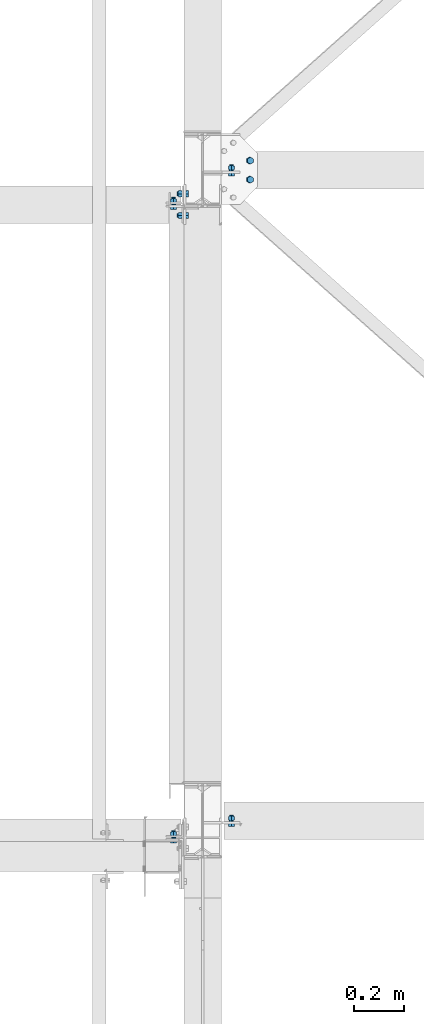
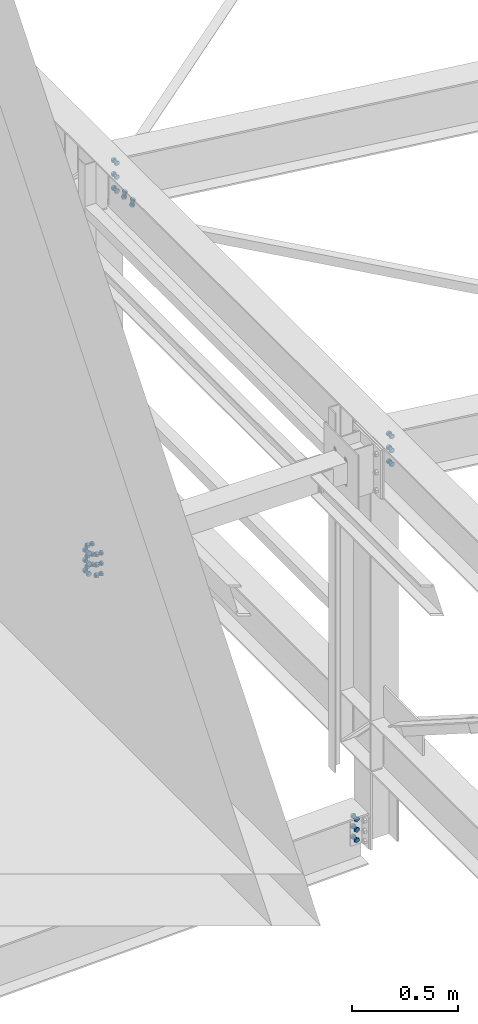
# One storey, part 96 of 3134: 7 mechanical fasteners, 5 elements without a shape of their own.
"""IFC2X3 building model written with IfcOpenShell, lengths in millimetres."""

from ifc_helpers import new_model, si_unit, frame, origin_with_axes, place, context, subcontext, project, spatial, faceted_brep, source, transform, mapped, material, type_object, element, aggregate, save


model = new_model("IFC2X3")

# Units and contexts
model_context = context("Model", 3, precision=1e-05, world=origin_with_axes())
body_context = subcontext(model_context, "Body", "Model", "MODEL_VIEW")
ifc_project = project(units=[si_unit("LENGTHUNIT", "METRE", prefix="MILLI"), si_unit("AREAUNIT", "SQUARE_METRE"), si_unit("VOLUMEUNIT", "CUBIC_METRE"), si_unit("MASSUNIT", "GRAM", prefix="KILO"), si_unit("TIMEUNIT", "SECOND"), si_unit("PLANEANGLEUNIT", "RADIAN"), si_unit("SOLIDANGLEUNIT", "STERADIAN"), si_unit("THERMODYNAMICTEMPERATUREUNIT", "DEGREE_CELSIUS"), si_unit("LUMINOUSINTENSITYUNIT", "LUMEN")], contexts=[model_context])

# Site, building, storey
site_placement = place(None, origin_with_axes())
site = spatial("IfcSite", under=ifc_project, at=site_placement, CompositionType="ELEMENT")
building_placement = place(site_placement, origin_with_axes())
building = spatial("IfcBuilding", under=site, at=building_placement, Name="Undefined", CompositionType="ELEMENT")
storey_placement = place(building_placement, origin_with_axes())
storey = spatial("IfcBuildingStorey", under=building, at=storey_placement, Name="Undefined", CompositionType="ELEMENT", Elevation=0.0)

# Assembly, mechanical fasteners
assembly_1_placement = place(storey_placement, origin_with_axes())
assembly_1 = element("IfcElementAssembly", 1, at=assembly_1_placement, inside=storey, Name="300", AssemblyPlace="NOTDEFINED", PredefinedType="RIGID_FRAME")
ifc_material = material(Name="8.8")
mechanical_fastener_type = type_object("IfcMechanicalFastenerType", Name="Bolt assembly")
shared_shape_1 = source(origin_with_axes(), body_context, "Body", "Brep", [
    faceted_brep([(13.856406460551, -19.199990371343, 0.0), (6.92820323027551, -19.199990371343, 12.0), (-6.92820323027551, -19.199990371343, 12.0), (-13.856406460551, -19.199990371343, 1.69692038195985e-15), (-6.92820323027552, -19.199990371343, -12.0), (6.9282032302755, -19.199990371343, -12.0), (6.9282032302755, -9.19999037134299, -12.0), (-6.92820323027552, -9.19999037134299, -12.0), (-13.856406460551, -9.19999037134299, 1.69692038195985e-15), (-6.92820323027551, -9.19999037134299, 12.0), (6.92820323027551, -9.19999037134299, 12.0), (13.856406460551, -9.19999037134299, 0.0), (8.0, -9.19999037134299, 0.0), (6.92820323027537, -9.19999037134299, 4.00000000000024), (3.99999999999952, -9.19999037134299, 6.92820323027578), (-8.29068785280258e-13, -9.19999037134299, 8.0), (-4.00000000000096, -9.19999037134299, 6.92820323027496), (-6.9282032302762, -9.19999037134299, 3.99999999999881), (-8.0, -9.19999037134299, -1.65813757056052e-12), (-6.92820323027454, -9.19999037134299, -4.00000000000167), (-3.99999999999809, -9.19999037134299, -6.92820323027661), (2.47832457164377e-12, -9.19999037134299, -8.0), (4.00000000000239, -9.19999037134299, -6.92820323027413), (6.92820323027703, -9.19999037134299, -3.99999999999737), (6.92820323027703, 25.800009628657, -3.99999999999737), (4.00000000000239, 25.800009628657, -6.92820323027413), (2.47832457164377e-12, 25.800009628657, -8.0), (-3.99999999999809, 25.800009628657, -6.92820323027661), (-6.92820323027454, 25.800009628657, -4.00000000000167), (-8.0, 25.800009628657, -1.65813757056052e-12), (-6.9282032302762, 25.800009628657, 3.99999999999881), (-4.00000000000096, 25.800009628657, 6.92820323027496), (-8.29068785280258e-13, 25.800009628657, 8.0), (3.99999999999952, 25.800009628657, 6.92820323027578), (6.92820323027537, 25.800009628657, 4.00000000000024), (8.0, 25.800009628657, 0.0), (13.856406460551, 8.00000637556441, 0.0), (6.92820323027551, 8.00000637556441, 12.0), (-6.92820323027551, 8.00000637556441, 12.0), (-13.856406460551, 8.00000637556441, 1.69692038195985e-15), (-6.92820323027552, 8.00000637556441, -12.0), (6.9282032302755, 8.00000637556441, -12.0), (6.9282032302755, 21.0000063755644, -12.0), (-6.92820323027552, 21.0000063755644, -12.0), (-13.856406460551, 21.0000063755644, 1.69692038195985e-15), (-6.92820323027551, 21.0000063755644, 12.0), (6.92820323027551, 21.0000063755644, 12.0), (13.856406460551, 21.0000063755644, 0.0)], [[[0, 1, 2, 3, 4, 5]], [[6, 7, 8, 9, 10, 11]], [[0, 11, 10, 1]], [[1, 10, 9, 2]], [[2, 9, 8, 3]], [[3, 8, 7, 4]], [[4, 7, 6, 5]], [[5, 6, 11, 0]], [[12, 13, 14, 15, 16, 17, 18, 19, 20, 21, 22, 23]], [[24, 25, 26, 27, 28, 29, 30, 31, 32, 33, 34, 35]], [[12, 35, 34, 13]], [[13, 34, 33, 14]], [[14, 33, 32, 15]], [[15, 32, 31, 16]], [[16, 31, 30, 17]], [[17, 30, 29, 18]], [[18, 29, 28, 19]], [[19, 28, 27, 20]], [[20, 27, 26, 21]], [[21, 26, 25, 22]], [[22, 25, 24, 23]], [[23, 24, 35, 12]], [[36, 37, 38, 39, 40, 41]], [[42, 43, 44, 45, 46, 47]], [[36, 47, 46, 37]], [[37, 46, 45, 38]], [[38, 45, 44, 39]], [[39, 44, 43, 40]], [[40, 43, 42, 41]], [[41, 42, 47, 36]]]),
    faceted_brep([(9.0, -0.1, 0.0), (7.79422863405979, -0.1, 4.50000000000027), (4.49999999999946, -0.1, 7.79422863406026), (-9.3270238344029e-13, -0.1, 9.0), (-4.50000000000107, -0.1, 7.79422863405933), (-7.79422863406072, -0.1, 4.49999999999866), (-9.0, -0.1, -1.86540476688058e-12), (-7.79422863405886, -0.1, -4.50000000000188), (-4.49999999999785, -0.1, -7.79422863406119), (2.78811514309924e-12, -0.1, -9.0), (4.50000000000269, -0.1, -7.7942286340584), (7.79422863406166, -0.1, -4.49999999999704), (7.79422863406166, 8.00000000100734, -4.49999999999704), (4.50000000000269, 8.00000000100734, -7.7942286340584), (2.78811514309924e-12, 8.00000000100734, -9.0), (-4.49999999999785, 8.00000000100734, -7.79422863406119), (-7.79422863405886, 8.00000000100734, -4.50000000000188), (-9.0, 8.00000000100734, -1.86540476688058e-12), (-7.79422863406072, 8.00000000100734, 4.49999999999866), (-4.50000000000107, 8.00000000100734, 7.79422863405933), (-9.3270238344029e-13, 8.00000000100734, 9.0), (4.49999999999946, 8.00000000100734, 7.79422863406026), (7.79422863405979, 8.00000000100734, 4.50000000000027), (9.0, 8.00000000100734, 0.0), (9.0, -9.09999037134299, 0.0), (7.79422863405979, -9.09999037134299, 4.50000000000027), (4.49999999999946, -9.09999037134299, 7.79422863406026), (-9.3270238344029e-13, -9.09999037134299, 9.0), (-4.50000000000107, -9.09999037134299, 7.79422863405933), (-7.79422863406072, -9.09999037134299, 4.49999999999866), (-9.0, -9.09999037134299, -1.86540476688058e-12), (-7.79422863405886, -9.09999037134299, -4.50000000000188), (-4.49999999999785, -9.09999037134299, -7.79422863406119), (2.78811514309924e-12, -9.09999037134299, -9.0), (4.50000000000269, -9.09999037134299, -7.7942286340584), (7.79422863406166, -9.09999037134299, -4.49999999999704), (7.79422863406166, 0.100000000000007, -4.49999999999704), (4.50000000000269, 0.100000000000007, -7.7942286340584), (2.78811514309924e-12, 0.100000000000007, -9.0), (-4.49999999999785, 0.100000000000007, -7.79422863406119), (-7.79422863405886, 0.100000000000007, -4.50000000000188), (-9.0, 0.100000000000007, -1.86540476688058e-12), (-7.79422863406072, 0.100000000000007, 4.49999999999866), (-4.50000000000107, 0.100000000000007, 7.79422863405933), (-9.3270238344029e-13, 0.100000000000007, 9.0), (4.49999999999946, 0.100000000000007, 7.79422863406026), (7.79422863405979, 0.100000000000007, 4.50000000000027), (9.0, 0.100000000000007, 0.0)], [[[0, 1, 2, 3, 4, 5, 6, 7, 8, 9, 10, 11]], [[12, 13, 14, 15, 16, 17, 18, 19, 20, 21, 22, 23]], [[0, 23, 22, 1]], [[1, 22, 21, 2]], [[2, 21, 20, 3]], [[3, 20, 19, 4]], [[4, 19, 18, 5]], [[5, 18, 17, 6]], [[6, 17, 16, 7]], [[7, 16, 15, 8]], [[8, 15, 14, 9]], [[9, 14, 13, 10]], [[10, 13, 12, 11]], [[11, 12, 23, 0]], [[24, 25, 26, 27, 28, 29, 30, 31, 32, 33, 34, 35]], [[36, 37, 38, 39, 40, 41, 42, 43, 44, 45, 46, 47]], [[24, 47, 46, 25]], [[25, 46, 45, 26]], [[26, 45, 44, 27]], [[27, 44, 43, 28]], [[28, 43, 42, 29]], [[29, 42, 41, 30]], [[30, 41, 40, 31]], [[31, 40, 39, 32]], [[32, 39, 38, 33]], [[33, 38, 37, 34]], [[34, 37, 36, 35]], [[35, 36, 47, 24]]]),
])
mechanical_fastener_1_placement = place(assembly_1_placement, frame((21039.2248161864, 24687.9995130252, 5496.68063426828), z_axis=(0.992623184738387, 1.63108538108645e-05, -0.12124031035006), x_axis=(1.62000016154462e-05, -0.999999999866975, -1.90000018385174e-06)))
mechanical_fastener_1 = element("IfcMechanicalFastener", 2, at=mechanical_fastener_1_placement, type_object=mechanical_fastener_type, material=ifc_material, Name="Bolt assembly", NominalDiameter=16.0, NominalLength=35.0, context=body_context, shape_type="MappedRepresentation", body=[
    mapped(shared_shape_1, transform((0.0, 0.0, 0.0))),
    mapped(shared_shape_1, transform((76.0, 0.0, 0.0))),
])
shared_shape_2 = source(origin_with_axes(), body_context, "Body", "Brep", [
    faceted_brep([(13.856406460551, -23.0499999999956, 0.0), (6.92820323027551, -23.0499999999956, 12.0), (-6.92820323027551, -23.0499999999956, 12.0), (-13.856406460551, -23.0499999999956, 1.69692038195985e-15), (-6.92820323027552, -23.0499999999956, -12.0), (6.9282032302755, -23.0499999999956, -12.0), (6.9282032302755, -13.0499999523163, -12.0), (-6.92820323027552, -13.0499999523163, -12.0), (-13.856406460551, -13.0499999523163, 1.69692038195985e-15), (-6.92820323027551, -13.0499999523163, 12.0), (6.92820323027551, -13.0499999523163, 12.0), (13.856406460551, -13.0499999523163, 0.0), (8.0, -13.0499999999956, 0.0), (6.92820323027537, -13.0499999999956, 4.00000000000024), (3.99999999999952, -13.0499999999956, 6.92820323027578), (-8.29068785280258e-13, -13.0499999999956, 8.0), (-4.00000000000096, -13.0499999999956, 6.92820323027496), (-6.9282032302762, -13.0499999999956, 3.99999999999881), (-8.0, -13.0499999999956, -1.65813757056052e-12), (-6.92820323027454, -13.0499999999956, -4.00000000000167), (-3.99999999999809, -13.0499999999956, -6.92820323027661), (2.47832457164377e-12, -13.0499999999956, -8.0), (4.00000000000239, -13.0499999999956, -6.92820323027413), (6.92820323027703, -13.0499999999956, -3.99999999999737), (6.92820323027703, 21.9500000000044, -3.99999999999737), (4.00000000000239, 21.9500000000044, -6.92820323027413), (2.47832457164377e-12, 21.9500000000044, -8.0), (-3.99999999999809, 21.9500000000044, -6.92820323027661), (-6.92820323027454, 21.9500000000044, -4.00000000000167), (-8.0, 21.9500000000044, -1.65813757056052e-12), (-6.9282032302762, 21.9500000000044, 3.99999999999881), (-4.00000000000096, 21.9500000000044, 6.92820323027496), (-8.29068785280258e-13, 21.9500000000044, 8.0), (3.99999999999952, 21.9500000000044, 6.92820323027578), (6.92820323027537, 21.9500000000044, 4.00000000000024), (8.0, 21.9500000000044, 0.0), (13.856406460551, 3.04999995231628, 0.0), (6.92820323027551, 3.04999995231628, 12.0), (-6.92820323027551, 3.04999995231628, 12.0), (-13.856406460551, 3.04999995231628, 1.69692038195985e-15), (-6.92820323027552, 3.04999995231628, -12.0), (6.9282032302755, 3.04999995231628, -12.0), (6.9282032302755, 16.0499999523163, -12.0), (-6.92820323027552, 16.0499999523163, -12.0), (-13.856406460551, 16.0499999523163, 1.69692038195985e-15), (-6.92820323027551, 16.0499999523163, 12.0), (6.92820323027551, 16.0499999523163, 12.0), (13.856406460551, 16.0499999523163, 0.0)], [[[0, 1, 2, 3, 4, 5]], [[6, 7, 8, 9, 10, 11]], [[0, 11, 10, 1]], [[1, 10, 9, 2]], [[2, 9, 8, 3]], [[3, 8, 7, 4]], [[4, 7, 6, 5]], [[5, 6, 11, 0]], [[12, 13, 14, 15, 16, 17, 18, 19, 20, 21, 22, 23]], [[24, 25, 26, 27, 28, 29, 30, 31, 32, 33, 34, 35]], [[12, 35, 34, 13]], [[13, 34, 33, 14]], [[14, 33, 32, 15]], [[15, 32, 31, 16]], [[16, 31, 30, 17]], [[17, 30, 29, 18]], [[18, 29, 28, 19]], [[19, 28, 27, 20]], [[20, 27, 26, 21]], [[21, 26, 25, 22]], [[22, 25, 24, 23]], [[23, 24, 35, 12]], [[36, 37, 38, 39, 40, 41]], [[42, 43, 44, 45, 46, 47]], [[36, 47, 46, 37]], [[37, 46, 45, 38]], [[38, 45, 44, 39]], [[39, 44, 43, 40]], [[40, 43, 42, 41]], [[41, 42, 47, 36]]]),
    faceted_brep([(9.0, -12.9499999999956, 0.0), (7.79422863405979, -12.9499999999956, 4.50000000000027), (4.49999999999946, -12.9499999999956, 7.79422863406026), (-9.3270238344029e-13, -12.9499999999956, 9.0), (-4.50000000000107, -12.9499999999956, 7.79422863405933), (-7.79422863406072, -12.9499999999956, 4.49999999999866), (-9.0, -12.9499999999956, -1.86540476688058e-12), (-7.79422863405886, -12.9499999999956, -4.50000000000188), (-4.49999999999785, -12.9499999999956, -7.79422863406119), (2.78811514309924e-12, -12.9499999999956, -9.0), (4.50000000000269, -12.9499999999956, -7.7942286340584), (7.79422863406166, -12.9499999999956, -4.49999999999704), (7.79422863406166, -2.94999995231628, -4.49999999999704), (4.50000000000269, -2.94999995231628, -7.7942286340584), (2.78811514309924e-12, -2.94999995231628, -9.0), (-4.49999999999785, -2.94999995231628, -7.79422863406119), (-7.79422863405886, -2.94999995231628, -4.50000000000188), (-9.0, -2.94999995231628, -1.86540476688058e-12), (-7.79422863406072, -2.94999995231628, 4.49999999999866), (-4.50000000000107, -2.94999995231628, 7.79422863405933), (-9.3270238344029e-13, -2.94999995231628, 9.0), (4.49999999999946, -2.94999995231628, 7.79422863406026), (7.79422863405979, -2.94999995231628, 4.50000000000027), (9.0, -2.94999995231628, 0.0), (9.0, -3.14999995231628, 0.0), (7.79422863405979, -3.14999995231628, 4.50000000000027), (4.49999999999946, -3.14999995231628, 7.79422863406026), (-9.3270238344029e-13, -3.14999995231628, 9.0), (-4.50000000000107, -3.14999995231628, 7.79422863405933), (-7.79422863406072, -3.14999995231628, 4.49999999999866), (-9.0, -3.14999995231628, -1.86540476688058e-12), (-7.79422863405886, -3.14999995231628, -4.50000000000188), (-4.49999999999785, -3.14999995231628, -7.79422863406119), (2.78811514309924e-12, -3.14999995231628, -9.0), (4.50000000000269, -3.14999995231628, -7.7942286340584), (7.79422863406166, -3.14999995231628, -4.49999999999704), (7.79422863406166, 3.04999995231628, -4.49999999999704), (4.50000000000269, 3.04999995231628, -7.7942286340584), (2.78811514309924e-12, 3.04999995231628, -9.0), (-4.49999999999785, 3.04999995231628, -7.79422863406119), (-7.79422863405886, 3.04999995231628, -4.50000000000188), (-9.0, 3.04999995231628, -1.86540476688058e-12), (-7.79422863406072, 3.04999995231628, 4.49999999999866), (-4.50000000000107, 3.04999995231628, 7.79422863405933), (-9.3270238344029e-13, 3.04999995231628, 9.0), (4.49999999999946, 3.04999995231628, 7.79422863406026), (7.79422863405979, 3.04999995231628, 4.50000000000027), (9.0, 3.04999995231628, 0.0)], [[[0, 1, 2, 3, 4, 5, 6, 7, 8, 9, 10, 11]], [[12, 13, 14, 15, 16, 17, 18, 19, 20, 21, 22, 23]], [[0, 23, 22, 1]], [[1, 22, 21, 2]], [[2, 21, 20, 3]], [[3, 20, 19, 4]], [[4, 19, 18, 5]], [[5, 18, 17, 6]], [[6, 17, 16, 7]], [[7, 16, 15, 8]], [[8, 15, 14, 9]], [[9, 14, 13, 10]], [[10, 13, 12, 11]], [[11, 12, 23, 0]], [[24, 25, 26, 27, 28, 29, 30, 31, 32, 33, 34, 35]], [[36, 37, 38, 39, 40, 41, 42, 43, 44, 45, 46, 47]], [[24, 47, 46, 25]], [[25, 46, 45, 26]], [[26, 45, 44, 27]], [[27, 44, 43, 28]], [[28, 43, 42, 29]], [[29, 42, 41, 30]], [[30, 41, 40, 31]], [[31, 40, 39, 32]], [[32, 39, 38, 33]], [[33, 38, 37, 34]], [[34, 37, 36, 35]], [[35, 36, 47, 24]]]),
])
mechanical_fastener_2_placement = place(assembly_1_placement, frame((20965.0, 24650.0, 5735.35014950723), z_axis=(1.0, 0.0, 0.0), x_axis=(0.0, 0.0, -1.0)))
mechanical_fastener_2 = element("IfcMechanicalFastener", 3, at=mechanical_fastener_2_placement, type_object=mechanical_fastener_type, material=ifc_material, Name="Bolt assembly", NominalDiameter=16.0, NominalLength=35.0, context=body_context, shape_type="MappedRepresentation", body=[
    mapped(shared_shape_2, transform((0.0, 0.0, 0.0))),
    mapped(shared_shape_2, transform((80.0, 0.0, 0.0))),
    mapped(shared_shape_2, transform((160.0, 0.0, 0.0))),
])
aggregate(assembly_1, [mechanical_fastener_1, mechanical_fastener_2])

# Assembly, mechanical fastener
assembly_2_placement = place(storey_placement, origin_with_axes())
assembly_2 = element("IfcElementAssembly", 4, at=assembly_2_placement, inside=storey, Name="300", AssemblyPlace="NOTDEFINED", PredefinedType="RIGID_FRAME")
mechanical_fastener_3_placement = place(assembly_2_placement, frame((20965.0, 22050.0, 5735.35014950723), z_axis=(1.0, 0.0, 0.0), x_axis=(0.0, 0.0, -1.0)))
mechanical_fastener_3 = element("IfcMechanicalFastener", 5, at=mechanical_fastener_3_placement, type_object=mechanical_fastener_type, material=ifc_material, Name="Bolt assembly", NominalDiameter=16.0, NominalLength=35.0, context=body_context, shape_type="MappedRepresentation", body=[
    mapped(shared_shape_2, transform((0.0, 0.0, 0.0))),
    mapped(shared_shape_2, transform((80.0, 0.0, 0.0))),
    mapped(shared_shape_2, transform((160.0, 0.0, 0.0))),
])
aggregate(assembly_2, [mechanical_fastener_3])

assembly_3_placement = place(storey_placement, origin_with_axes())
assembly_3 = element("IfcElementAssembly", 6, at=assembly_3_placement, inside=storey, AssemblyPlace="NOTDEFINED", PredefinedType="RIGID_FRAME")
shared_shape_3 = source(origin_with_axes(), body_context, "Body", "Brep", [
    faceted_brep([(13.856406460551, -20.0400000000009, 0.0), (6.92820323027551, -20.0400000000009, 12.0), (-6.92820323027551, -20.0400000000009, 12.0), (-13.856406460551, -20.0400000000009, 1.69692038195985e-15), (-6.92820323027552, -20.0400000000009, -12.0), (6.9282032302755, -20.0400000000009, -12.0), (6.9282032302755, -10.0400000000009, -12.0), (-6.92820323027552, -10.0400000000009, -12.0), (-13.856406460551, -10.0400000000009, 1.69692038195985e-15), (-6.92820323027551, -10.0400000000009, 12.0), (6.92820323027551, -10.0400000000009, 12.0), (13.856406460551, -10.0400000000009, 0.0), (8.0, -10.0400000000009, 0.0), (6.92820323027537, -10.0400000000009, 4.00000000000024), (3.99999999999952, -10.0400000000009, 6.92820323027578), (-8.29068785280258e-13, -10.0400000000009, 8.0), (-4.00000000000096, -10.0400000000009, 6.92820323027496), (-6.9282032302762, -10.0400000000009, 3.99999999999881), (-8.0, -10.0400000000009, -1.65813757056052e-12), (-6.92820323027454, -10.0400000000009, -4.00000000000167), (-3.99999999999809, -10.0400000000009, -6.92820323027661), (2.47832457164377e-12, -10.0400000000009, -8.0), (4.00000000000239, -10.0400000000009, -6.92820323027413), (6.92820323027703, -10.0400000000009, -3.99999999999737), (6.92820323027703, 29.9599999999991, -3.99999999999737), (4.00000000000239, 29.9599999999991, -6.92820323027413), (2.47832457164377e-12, 29.9599999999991, -8.0), (-3.99999999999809, 29.9599999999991, -6.92820323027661), (-6.92820323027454, 29.9599999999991, -4.00000000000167), (-8.0, 29.9599999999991, -1.65813757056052e-12), (-6.9282032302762, 29.9599999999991, 3.99999999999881), (-4.00000000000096, 29.9599999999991, 6.92820323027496), (-8.29068785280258e-13, 29.9599999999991, 8.0), (3.99999999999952, 29.9599999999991, 6.92820323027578), (6.92820323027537, 29.9599999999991, 4.00000000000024), (8.0, 29.9599999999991, 0.0), (13.856406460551, 10.0400000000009, 0.0), (6.92820323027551, 10.0400000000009, 12.0), (-6.92820323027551, 10.0400000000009, 12.0), (-13.856406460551, 10.0400000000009, 1.69692038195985e-15), (-6.92820323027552, 10.0400000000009, -12.0), (6.9282032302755, 10.0400000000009, -12.0), (6.9282032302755, 23.0400000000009, -12.0), (-6.92820323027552, 23.0400000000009, -12.0), (-13.856406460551, 23.0400000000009, 1.69692038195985e-15), (-6.92820323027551, 23.0400000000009, 12.0), (6.92820323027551, 23.0400000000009, 12.0), (13.856406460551, 23.0400000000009, 0.0)], [[[0, 1, 2, 3, 4, 5]], [[6, 7, 8, 9, 10, 11]], [[0, 11, 10, 1]], [[1, 10, 9, 2]], [[2, 9, 8, 3]], [[3, 8, 7, 4]], [[4, 7, 6, 5]], [[5, 6, 11, 0]], [[12, 13, 14, 15, 16, 17, 18, 19, 20, 21, 22, 23]], [[24, 25, 26, 27, 28, 29, 30, 31, 32, 33, 34, 35]], [[12, 35, 34, 13]], [[13, 34, 33, 14]], [[14, 33, 32, 15]], [[15, 32, 31, 16]], [[16, 31, 30, 17]], [[17, 30, 29, 18]], [[18, 29, 28, 19]], [[19, 28, 27, 20]], [[20, 27, 26, 21]], [[21, 26, 25, 22]], [[22, 25, 24, 23]], [[23, 24, 35, 12]], [[36, 37, 38, 39, 40, 41]], [[42, 43, 44, 45, 46, 47]], [[36, 47, 46, 37]], [[37, 46, 45, 38]], [[38, 45, 44, 39]], [[39, 44, 43, 40]], [[40, 43, 42, 41]], [[41, 42, 47, 36]]]),
    faceted_brep([(9.0, -3.04999995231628, 0.0), (7.79422863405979, -3.04999995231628, 4.50000000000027), (4.49999999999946, -3.04999995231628, 7.79422863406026), (-9.3270238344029e-13, -3.04999995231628, 9.0), (-4.50000000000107, -3.04999995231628, 7.79422863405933), (-7.79422863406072, -3.04999995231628, 4.49999999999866), (-9.0, -3.04999995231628, -1.86540476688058e-12), (-7.79422863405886, -3.04999995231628, -4.50000000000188), (-4.49999999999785, -3.04999995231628, -7.79422863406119), (2.78811514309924e-12, -3.04999995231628, -9.0), (4.50000000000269, -3.04999995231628, -7.7942286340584), (7.79422863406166, -3.04999995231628, -4.49999999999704), (7.79422863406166, 3.04999995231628, -4.49999999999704), (4.50000000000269, 3.04999995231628, -7.7942286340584), (2.78811514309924e-12, 3.04999995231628, -9.0), (-4.49999999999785, 3.04999995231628, -7.79422863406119), (-7.79422863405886, 3.04999995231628, -4.50000000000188), (-9.0, 3.04999995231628, -1.86540476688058e-12), (-7.79422863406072, 3.04999995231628, 4.49999999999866), (-4.50000000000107, 3.04999995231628, 7.79422863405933), (-9.3270238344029e-13, 3.04999995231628, 9.0), (4.49999999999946, 3.04999995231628, 7.79422863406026), (7.79422863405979, 3.04999995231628, 4.50000000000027), (9.0, 3.04999995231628, 0.0), (9.0, -9.94000000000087, 0.0), (7.79422863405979, -9.94000000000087, 4.50000000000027), (4.49999999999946, -9.94000000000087, 7.79422863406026), (-9.3270238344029e-13, -9.94000000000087, 9.0), (-4.50000000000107, -9.94000000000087, 7.79422863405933), (-7.79422863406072, -9.94000000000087, 4.49999999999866), (-9.0, -9.94000000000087, -1.86540476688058e-12), (-7.79422863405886, -9.94000000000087, -4.50000000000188), (-4.49999999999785, -9.94000000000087, -7.79422863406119), (2.78811514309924e-12, -9.94000000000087, -9.0), (4.50000000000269, -9.94000000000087, -7.7942286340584), (7.79422863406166, -9.94000000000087, -4.49999999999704), (7.79422863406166, -2.94000000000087, -4.49999999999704), (4.50000000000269, -2.94000000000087, -7.7942286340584), (2.78811514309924e-12, -2.94000000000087, -9.0), (-4.49999999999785, -2.94000000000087, -7.79422863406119), (-7.79422863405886, -2.94000000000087, -4.50000000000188), (-9.0, -2.94000000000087, -1.86540476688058e-12), (-7.79422863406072, -2.94000000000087, 4.49999999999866), (-4.50000000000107, -2.94000000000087, 7.79422863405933), (-9.3270238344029e-13, -2.94000000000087, 9.0), (4.49999999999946, -2.94000000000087, 7.79422863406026), (7.79422863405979, -2.94000000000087, 4.50000000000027), (9.0, -2.94000000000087, 0.0), (9.0, 2.94000000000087, 0.0), (7.79422863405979, 2.94000000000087, 4.50000000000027), (4.49999999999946, 2.94000000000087, 7.79422863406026), (-9.3270238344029e-13, 2.94000000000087, 9.0), (-4.50000000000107, 2.94000000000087, 7.79422863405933), (-7.79422863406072, 2.94000000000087, 4.49999999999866), (-9.0, 2.94000000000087, -1.86540476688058e-12), (-7.79422863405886, 2.94000000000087, -4.50000000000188), (-4.49999999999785, 2.94000000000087, -7.79422863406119), (2.78811514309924e-12, 2.94000000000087, -9.0), (4.50000000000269, 2.94000000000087, -7.7942286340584), (7.79422863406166, 2.94000000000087, -4.49999999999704), (7.79422863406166, 10.0400000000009, -4.49999999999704), (4.50000000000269, 10.0400000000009, -7.7942286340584), (2.78811514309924e-12, 10.0400000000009, -9.0), (-4.49999999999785, 10.0400000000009, -7.79422863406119), (-7.79422863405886, 10.0400000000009, -4.50000000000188), (-9.0, 10.0400000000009, -1.86540476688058e-12), (-7.79422863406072, 10.0400000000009, 4.49999999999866), (-4.50000000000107, 10.0400000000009, 7.79422863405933), (-9.3270238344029e-13, 10.0400000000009, 9.0), (4.49999999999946, 10.0400000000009, 7.79422863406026), (7.79422863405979, 10.0400000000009, 4.50000000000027), (9.0, 10.0400000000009, 0.0)], [[[0, 1, 2, 3, 4, 5, 6, 7, 8, 9, 10, 11]], [[12, 13, 14, 15, 16, 17, 18, 19, 20, 21, 22, 23]], [[0, 23, 22, 1]], [[1, 22, 21, 2]], [[2, 21, 20, 3]], [[3, 20, 19, 4]], [[4, 19, 18, 5]], [[5, 18, 17, 6]], [[6, 17, 16, 7]], [[7, 16, 15, 8]], [[8, 15, 14, 9]], [[9, 14, 13, 10]], [[10, 13, 12, 11]], [[11, 12, 23, 0]], [[24, 25, 26, 27, 28, 29, 30, 31, 32, 33, 34, 35]], [[36, 37, 38, 39, 40, 41, 42, 43, 44, 45, 46, 47]], [[24, 47, 46, 25]], [[25, 46, 45, 26]], [[26, 45, 44, 27]], [[27, 44, 43, 28]], [[28, 43, 42, 29]], [[29, 42, 41, 30]], [[30, 41, 40, 31]], [[31, 40, 39, 32]], [[32, 39, 38, 33]], [[33, 38, 37, 34]], [[34, 37, 36, 35]], [[35, 36, 47, 24]], [[48, 49, 50, 51, 52, 53, 54, 55, 56, 57, 58, 59]], [[60, 61, 62, 63, 64, 65, 66, 67, 68, 69, 70, 71]], [[48, 71, 70, 49]], [[49, 70, 69, 50]], [[50, 69, 68, 51]], [[51, 68, 67, 52]], [[52, 67, 66, 53]], [[53, 66, 65, 54]], [[54, 65, 64, 55]], [[55, 64, 63, 56]], [[56, 63, 62, 57]], [[57, 62, 61, 58]], [[58, 61, 60, 59]], [[59, 60, 71, 48]]]),
])
mechanical_fastener_4_placement = place(assembly_3_placement, frame((20734.0000000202, 21981.25, 3648.83272487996), z_axis=(1.0, 0.0, 0.0), x_axis=(0.0, 0.0, -1.0)))
mechanical_fastener_4 = element("IfcMechanicalFastener", 7, at=mechanical_fastener_4_placement, type_object=mechanical_fastener_type, material=ifc_material, Name="Bolt assembly", NominalDiameter=16.0, NominalLength=40.0, context=body_context, shape_type="MappedRepresentation", body=[
    mapped(shared_shape_3, transform((0.0, 0.0, 0.0))),
    mapped(shared_shape_3, transform((59.9999999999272, 0.0, 5.40239852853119e-10))),
    mapped(shared_shape_3, transform((120.0, 0.0, 0.0))),
])
aggregate(assembly_3, [mechanical_fastener_4])

# Assembly, mechanical fasteners
assembly_4_placement = place(storey_placement, origin_with_axes())
assembly_4 = element("IfcElementAssembly", 8, at=assembly_4_placement, inside=storey, AssemblyPlace="NOTDEFINED", PredefinedType="RIGID_FRAME")
mechanical_fastener_5_placement = place(assembly_4_placement, frame((20734.0000000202, 24512.5, 3648.83272487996), z_axis=(1.0, 0.0, 0.0), x_axis=(0.0, 0.0, -1.0)))
mechanical_fastener_5 = element("IfcMechanicalFastener", 9, at=mechanical_fastener_5_placement, type_object=mechanical_fastener_type, material=ifc_material, Name="Bolt assembly", NominalDiameter=16.0, NominalLength=40.0, context=body_context, shape_type="MappedRepresentation", body=[
    mapped(shared_shape_3, transform((0.0, 0.0, 0.0))),
    mapped(shared_shape_3, transform((59.9999999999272, 0.0, 5.40239852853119e-10))),
    mapped(shared_shape_3, transform((120.0, 0.0, 0.0))),
])
shared_shape_4 = source(origin_with_axes(), body_context, "Body", "Brep", [
    faceted_brep([(13.856406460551, -19.0, 0.0), (6.92820323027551, -19.0, 12.0), (-6.92820323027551, -19.0, 12.0), (-13.856406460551, -19.0, 1.69692038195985e-15), (-6.92820323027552, -19.0, -12.0), (6.9282032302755, -19.0, -12.0), (6.9282032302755, -9.0, -12.0), (-6.92820323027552, -9.0, -12.0), (-13.856406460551, -9.0, 1.69692038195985e-15), (-6.92820323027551, -9.0, 12.0), (6.92820323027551, -9.0, 12.0), (13.856406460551, -9.0, 0.0), (8.0, -9.0, 0.0), (6.92820323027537, -9.0, 4.00000000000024), (3.99999999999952, -9.0, 6.92820323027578), (-8.29068785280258e-13, -9.0, 8.0), (-4.00000000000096, -9.0, 6.92820323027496), (-6.9282032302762, -9.0, 3.99999999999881), (-8.0, -9.0, -1.65813757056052e-12), (-6.92820323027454, -9.0, -4.00000000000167), (-3.99999999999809, -9.0, -6.92820323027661), (2.47832457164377e-12, -9.0, -8.0), (4.00000000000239, -9.0, -6.92820323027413), (6.92820323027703, -9.0, -3.99999999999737), (6.92820323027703, 26.0, -3.99999999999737), (4.00000000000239, 26.0, -6.92820323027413), (2.47832457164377e-12, 26.0, -8.0), (-3.99999999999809, 26.0, -6.92820323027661), (-6.92820323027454, 26.0, -4.00000000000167), (-8.0, 26.0, -1.65813757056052e-12), (-6.9282032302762, 26.0, 3.99999999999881), (-4.00000000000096, 26.0, 6.92820323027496), (-8.29068785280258e-13, 26.0, 8.0), (3.99999999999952, 26.0, 6.92820323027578), (6.92820323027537, 26.0, 4.00000000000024), (8.0, 26.0, 0.0), (13.856406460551, 7.0, 0.0), (6.92820323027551, 7.0, 12.0), (-6.92820323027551, 7.0, 12.0), (-13.856406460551, 7.0, 1.69692038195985e-15), (-6.92820323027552, 7.0, -12.0), (6.9282032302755, 7.0, -12.0), (6.9282032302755, 20.0, -12.0), (-6.92820323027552, 20.0, -12.0), (-13.856406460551, 20.0, 1.69692038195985e-15), (-6.92820323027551, 20.0, 12.0), (6.92820323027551, 20.0, 12.0), (13.856406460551, 20.0, 0.0)], [[[0, 1, 2, 3, 4, 5]], [[6, 7, 8, 9, 10, 11]], [[0, 11, 10, 1]], [[1, 10, 9, 2]], [[2, 9, 8, 3]], [[3, 8, 7, 4]], [[4, 7, 6, 5]], [[5, 6, 11, 0]], [[12, 13, 14, 15, 16, 17, 18, 19, 20, 21, 22, 23]], [[24, 25, 26, 27, 28, 29, 30, 31, 32, 33, 34, 35]], [[12, 35, 34, 13]], [[13, 34, 33, 14]], [[14, 33, 32, 15]], [[15, 32, 31, 16]], [[16, 31, 30, 17]], [[17, 30, 29, 18]], [[18, 29, 28, 19]], [[19, 28, 27, 20]], [[20, 27, 26, 21]], [[21, 26, 25, 22]], [[22, 25, 24, 23]], [[23, 24, 35, 12]], [[36, 37, 38, 39, 40, 41]], [[42, 43, 44, 45, 46, 47]], [[36, 47, 46, 37]], [[37, 46, 45, 38]], [[38, 45, 44, 39]], [[39, 44, 43, 40]], [[40, 43, 42, 41]], [[41, 42, 47, 36]]]),
    faceted_brep([(9.0, -8.9, 0.0), (7.79422863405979, -8.9, 4.50000000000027), (4.49999999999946, -8.9, 7.79422863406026), (-9.3270238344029e-13, -8.9, 9.0), (-4.50000000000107, -8.9, 7.79422863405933), (-7.79422863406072, -8.9, 4.49999999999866), (-9.0, -8.9, -1.86540476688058e-12), (-7.79422863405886, -8.9, -4.50000000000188), (-4.49999999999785, -8.9, -7.79422863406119), (2.78811514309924e-12, -8.9, -9.0), (4.50000000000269, -8.9, -7.7942286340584), (7.79422863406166, -8.9, -4.49999999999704), (7.79422863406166, 0.100000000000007, -4.49999999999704), (4.50000000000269, 0.100000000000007, -7.7942286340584), (2.78811514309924e-12, 0.100000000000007, -9.0), (-4.49999999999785, 0.100000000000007, -7.79422863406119), (-7.79422863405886, 0.100000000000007, -4.50000000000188), (-9.0, 0.100000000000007, -1.86540476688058e-12), (-7.79422863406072, 0.100000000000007, 4.49999999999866), (-4.50000000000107, 0.100000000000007, 7.79422863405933), (-9.3270238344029e-13, 0.100000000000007, 9.0), (4.49999999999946, 0.100000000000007, 7.79422863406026), (7.79422863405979, 0.100000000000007, 4.50000000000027), (9.0, 0.100000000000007, 0.0), (9.0, -0.1, 0.0), (7.79422863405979, -0.1, 4.50000000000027), (4.49999999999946, -0.1, 7.79422863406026), (-9.3270238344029e-13, -0.1, 9.0), (-4.50000000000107, -0.1, 7.79422863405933), (-7.79422863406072, -0.1, 4.49999999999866), (-9.0, -0.1, -1.86540476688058e-12), (-7.79422863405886, -0.1, -4.50000000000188), (-4.49999999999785, -0.1, -7.79422863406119), (2.78811514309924e-12, -0.1, -9.0), (4.50000000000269, -0.1, -7.7942286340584), (7.79422863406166, -0.1, -4.49999999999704), (7.79422863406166, 7.0, -4.49999999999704), (4.50000000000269, 7.0, -7.7942286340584), (2.78811514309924e-12, 7.0, -9.0), (-4.49999999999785, 7.0, -7.79422863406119), (-7.79422863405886, 7.0, -4.50000000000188), (-9.0, 7.0, -1.86540476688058e-12), (-7.79422863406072, 7.0, 4.49999999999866), (-4.50000000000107, 7.0, 7.79422863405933), (-9.3270238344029e-13, 7.0, 9.0), (4.49999999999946, 7.0, 7.79422863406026), (7.79422863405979, 7.0, 4.50000000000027), (9.0, 7.0, 0.0)], [[[0, 1, 2, 3, 4, 5, 6, 7, 8, 9, 10, 11]], [[12, 13, 14, 15, 16, 17, 18, 19, 20, 21, 22, 23]], [[0, 23, 22, 1]], [[1, 22, 21, 2]], [[2, 21, 20, 3]], [[3, 20, 19, 4]], [[4, 19, 18, 5]], [[5, 18, 17, 6]], [[6, 17, 16, 7]], [[7, 16, 15, 8]], [[8, 15, 14, 9]], [[9, 14, 13, 10]], [[10, 13, 12, 11]], [[11, 12, 23, 0]], [[24, 25, 26, 27, 28, 29, 30, 31, 32, 33, 34, 35]], [[36, 37, 38, 39, 40, 41, 42, 43, 44, 45, 46, 47]], [[24, 47, 46, 25]], [[25, 46, 45, 26]], [[26, 45, 44, 27]], [[27, 44, 43, 28]], [[28, 43, 42, 29]], [[29, 42, 41, 30]], [[30, 41, 40, 31]], [[31, 40, 39, 32]], [[32, 39, 38, 33]], [[33, 38, 37, 34]], [[34, 37, 36, 35]], [[35, 36, 47, 24]]]),
])
mechanical_fastener_6_placement = place(assembly_4_placement, frame((20774.0000000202, 24469.46, 3648.83272487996), z_axis=(0.0, 1.0, 0.0), x_axis=(0.0, 0.0, -1.0)))
mechanical_fastener_6 = element("IfcMechanicalFastener", 10, at=mechanical_fastener_6_placement, type_object=mechanical_fastener_type, material=ifc_material, Name="Bolt assembly", NominalDiameter=16.0, NominalLength=35.0, context=body_context, shape_type="MappedRepresentation", body=[
    mapped(shared_shape_4, transform((0.0, 0.0, 0.0))),
    mapped(shared_shape_4, transform((59.9999999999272, 0.0, 5.40239852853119e-10))),
    mapped(shared_shape_4, transform((120.0, 0.0, 0.0))),
])
aggregate(assembly_4, [mechanical_fastener_6, mechanical_fastener_5])

# Assembly, mechanical fastener
assembly_5_placement = place(storey_placement, origin_with_axes())
assembly_5 = element("IfcElementAssembly", 11, at=assembly_5_placement, inside=storey, AssemblyPlace="NOTDEFINED", PredefinedType="RIGID_FRAME")
mechanical_fastener_7_placement = place(assembly_5_placement, frame((20774.0000000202, 24555.54, 3648.83272487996), z_axis=(0.0, 1.0, 0.0), x_axis=(0.0, 0.0, -1.0)))
mechanical_fastener_7 = element("IfcMechanicalFastener", 12, at=mechanical_fastener_7_placement, type_object=mechanical_fastener_type, material=ifc_material, Name="Bolt assembly", NominalDiameter=16.0, NominalLength=35.0, context=body_context, shape_type="MappedRepresentation", body=[
    mapped(shared_shape_4, transform((0.0, 0.0, 0.0))),
    mapped(shared_shape_4, transform((59.9999999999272, 0.0, 5.40239852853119e-10))),
    mapped(shared_shape_4, transform((120.0, 0.0, 0.0))),
])
aggregate(assembly_5, [mechanical_fastener_7])

save(model, "model.ifc")
